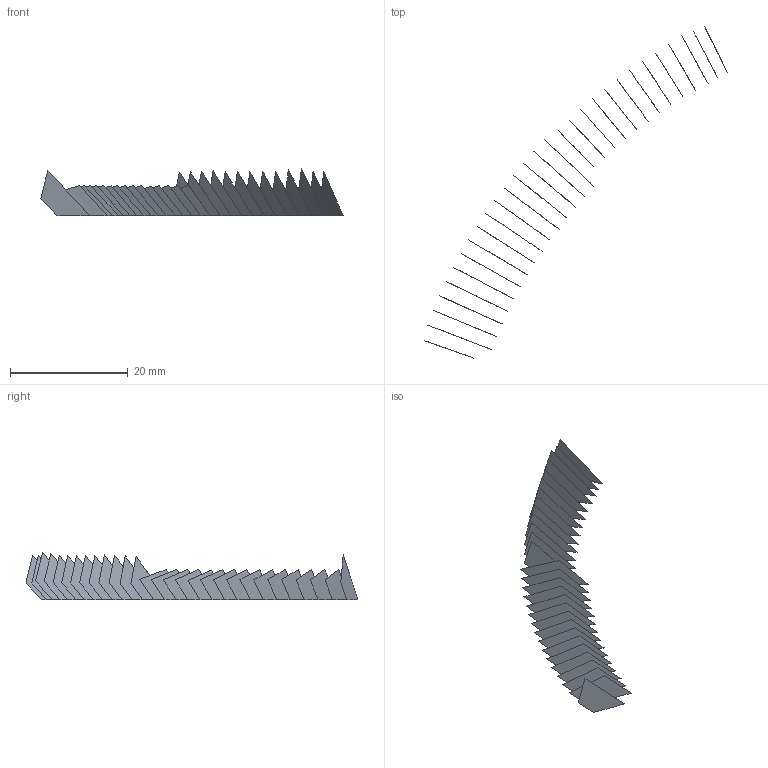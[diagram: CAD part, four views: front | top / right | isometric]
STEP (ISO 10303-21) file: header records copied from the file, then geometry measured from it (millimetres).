
FILE_DESCRIPTION(('FreeCAD Model'),'2;1');
FILE_NAME('Open CASCADE Shape Model','2022-05-21T09:28:00',('FreeCAD'),( 'FreeCAD'),'Open CASCADE STEP processor 7.5','FreeCAD','Unknown');
FILE_SCHEMA(('AUTOMOTIVE_DESIGN { 1 0 10303 214 1 1 1 1 }'));
Length unit declared in the file: millimetre
Products named in the file (30): Open CASCADE STEP translator 7.5 4; Open CASCADE STEP translator 7.5 4.1; Open CASCADE STEP translator 7.5 4.2; Open CASCADE STEP translator 7.5 4.3; Open CASCADE STEP translator 7.5 4.4; Open CASCADE STEP translator 7.5 4.5; Open CASCADE STEP translator 7.5 4.6; Open CASCADE STEP translator 7.5 4.7; Open CASCADE STEP translator 7.5 4.8; Open CASCADE STEP translator 7.5 4.9; Open CASCADE STEP translator 7.5 4.10; Open CASCADE STEP translator 7.5 4.11; Open CASCADE STEP translator 7.5 4.12; Open CASCADE STEP translator 7.5 4.13; Open CASCADE STEP translator 7.5 4.14; Open CASCADE STEP translator 7.5 4.15; Open CASCADE STEP translator 7.5 4.16; Open CASCADE STEP translator 7.5 4.17; Open CASCADE STEP translator 7.5 4.18; Open CASCADE STEP translator 7.5 4.19; Open CASCADE STEP translator 7.5 4.20; Open CASCADE STEP translator 7.5 4.21; Open CASCADE STEP translator 7.5 4.22; Open CASCADE STEP translator 7.5 4.23; Open CASCADE STEP translator 7.5 4.24; Open CASCADE STEP translator 7.5 4.25; Open CASCADE STEP translator 7.5 4.26; Open CASCADE STEP translator 7.5 4.27; Open CASCADE STEP translator 7.5 4.28; Open CASCADE STEP translator 7.5 4.29
Assembly tree (29 placements, depth 2):
  Open CASCADE STEP translator 7.5 4
    Open CASCADE STEP translator 7.5 4.1
    Open CASCADE STEP translator 7.5 4.2
    Open CASCADE STEP translator 7.5 4.3
    Open CASCADE STEP translator 7.5 4.4
    Open CASCADE STEP translator 7.5 4.5
    Open CASCADE STEP translator 7.5 4.6
    Open CASCADE STEP translator 7.5 4.7
    Open CASCADE STEP translator 7.5 4.8
    Open CASCADE STEP translator 7.5 4.9
    Open CASCADE STEP translator 7.5 4.10
    Open CASCADE STEP translator 7.5 4.11
    Open CASCADE STEP translator 7.5 4.12
    Open CASCADE STEP translator 7.5 4.13
    Open CASCADE STEP translator 7.5 4.14
    Open CASCADE STEP translator 7.5 4.15
    Open CASCADE STEP translator 7.5 4.16
    Open CASCADE STEP translator 7.5 4.17
    Open CASCADE STEP translator 7.5 4.18
    Open CASCADE STEP translator 7.5 4.19
    Open CASCADE STEP translator 7.5 4.20
    Open CASCADE STEP translator 7.5 4.21
    Open CASCADE STEP translator 7.5 4.22
    Open CASCADE STEP translator 7.5 4.23
    Open CASCADE STEP translator 7.5 4.24
    Open CASCADE STEP translator 7.5 4.25
    Open CASCADE STEP translator 7.5 4.26
    Open CASCADE STEP translator 7.5 4.27
    Open CASCADE STEP translator 7.5 4.28
    Open CASCADE STEP translator 7.5 4.29
Bounding box: 51.43 x 56.48 x 8.02 mm (x, y, z)
Surface area: 954.4 mm2 (no closed solid volume)
Topology: 0 solids, 29 shells, 29 faces, 267 edges, 267 vertices
Faces by surface type: bspline 29
Entity records: 4299 total; most frequent: CARTESIAN_POINT 1481, B_SPLINE_CURVE_WITH_KNOTS 534, ORIENTED_EDGE 267, EDGE_CURVE 267, VERTEX_POINT 267, SURFACE_CURVE 267, PCURVE 267, DEFINITIONAL_REPRESENTATION 267
